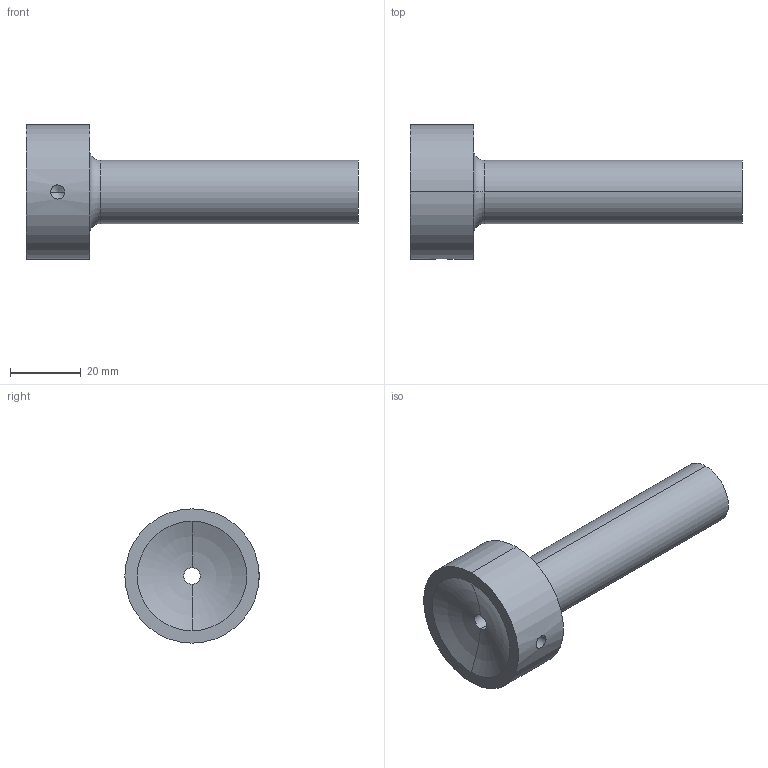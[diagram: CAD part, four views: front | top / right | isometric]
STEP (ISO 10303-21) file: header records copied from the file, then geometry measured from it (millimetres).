
FILE_DESCRIPTION (( 'STEP AP214' ), '1' );
FILE_NAME ('BR51 18x76x4,5x40.STEP', '2019-06-05T15:24:52', ( 'August' ), ( '' ), 'SwSTEP 2.0', 'SolidWorks 2018', '' );
FILE_SCHEMA (( 'AUTOMOTIVE_DESIGN' ));
Length unit declared in the file: millimetre
Products named in the file (1): BR51 18x76x4,5x40
Bounding box: 94 x 38 x 38 mm (x, y, z)
Volume: 35063.1 mm3; surface area: 10593.1 mm2
Topology: 1 solids, 1 shells, 17 faces, 36 edges, 21 vertices
Faces by surface type: cylinder 6, cone 4, torus 4, plane 3
Entity records: 538 total; most frequent: CARTESIAN_POINT 127, DIRECTION 90, ORIENTED_EDGE 68, AXIS2_PLACEMENT_3D 40, EDGE_CURVE 34, CIRCLE 22, VERTEX_POINT 21, EDGE_LOOP 21
